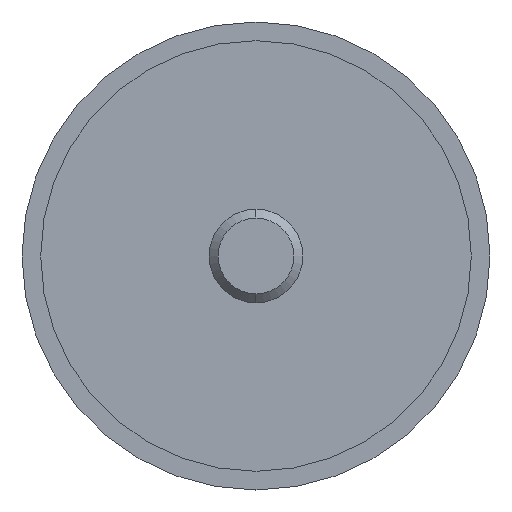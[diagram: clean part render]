
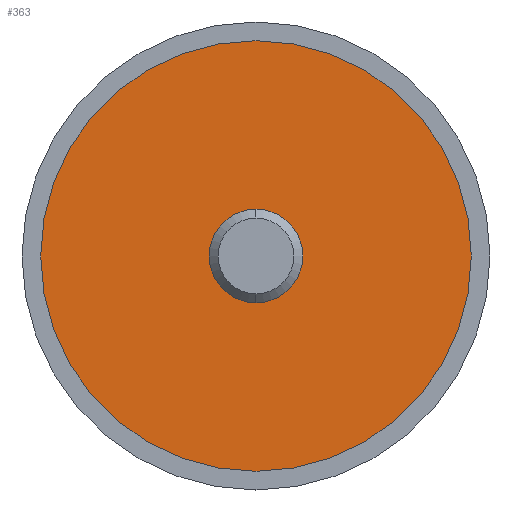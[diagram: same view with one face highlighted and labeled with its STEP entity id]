
A CAD part, left-side view. The second image highlights one B-rep face of the part: STEP entity #363.
In plain terms, the highlighted planar face has unit normal (-1, 0, 0).
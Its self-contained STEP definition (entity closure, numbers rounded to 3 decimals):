
#7 = AXIS2_PLACEMENT_3D ( 'NONE', #376, #677, #419 ) ;
#28 = DIRECTION ( 'NONE',  ( 0., 0., -1. ) ) ;
#53 = AXIS2_PLACEMENT_3D ( 'NONE', #236, #72, #508 ) ;
#63 = DIRECTION ( 'NONE',  ( -1., 0., 0. ) ) ;
#67 = CIRCLE ( 'NONE', #127, 23. ) ;
#72 = DIRECTION ( 'NONE',  ( -1., 0., 0. ) ) ;
#73 = ORIENTED_EDGE ( 'NONE', *, *, #262, .T. ) ;
#127 = AXIS2_PLACEMENT_3D ( 'NONE', #296, #232, #398 ) ;
#145 = CIRCLE ( 'NONE', #431, 23. ) ;
#158 = FACE_OUTER_BOUND ( 'NONE', #286, .T. ) ;
#187 = VERTEX_POINT ( 'NONE', #352 ) ;
#193 = EDGE_LOOP ( 'NONE', ( #377, #623 ) ) ;
#207 = EDGE_CURVE ( 'NONE', #637, #390, #468, .T. ) ;
#232 = DIRECTION ( 'NONE',  ( -1., 0., 0. ) ) ;
#236 = CARTESIAN_POINT ( 'NONE',  ( -9.99, 0., 0. ) ) ;
#246 = FACE_BOUND ( 'NONE', #193, .T. ) ;
#249 = EDGE_CURVE ( 'NONE', #390, #637, #373, .T. ) ;
#262 = EDGE_CURVE ( 'NONE', #187, #545, #145, .T. ) ;
#278 = EDGE_CURVE ( 'NONE', #545, #187, #67, .T. ) ;
#286 = EDGE_LOOP ( 'NONE', ( #73, #404 ) ) ;
#296 = CARTESIAN_POINT ( 'NONE',  ( -9.99, 0., 0. ) ) ;
#303 = CARTESIAN_POINT ( 'NONE',  ( -9.99, 0., -5. ) ) ;
#352 = CARTESIAN_POINT ( 'NONE',  ( -9.99, 0., 23. ) ) ;
#360 = CARTESIAN_POINT ( 'NONE',  ( -9.99, 0., 5. ) ) ;
#363 = ADVANCED_FACE ( 'NONE', ( #158, #246 ), #675, .F. ) ;
#373 = CIRCLE ( 'NONE', #53, 5. ) ;
#376 = CARTESIAN_POINT ( 'NONE',  ( -9.99, 23., 0. ) ) ;
#377 = ORIENTED_EDGE ( 'NONE', *, *, #249, .F. ) ;
#380 = AXIS2_PLACEMENT_3D ( 'NONE', #403, #63, #28 ) ;
#390 = VERTEX_POINT ( 'NONE', #360 ) ;
#393 = CARTESIAN_POINT ( 'NONE',  ( -9.99, 0., 0. ) ) ;
#398 = DIRECTION ( 'NONE',  ( 0., 0., 1. ) ) ;
#403 = CARTESIAN_POINT ( 'NONE',  ( -9.99, 0., 0. ) ) ;
#404 = ORIENTED_EDGE ( 'NONE', *, *, #278, .T. ) ;
#419 = DIRECTION ( 'NONE',  ( 0., 0., -1. ) ) ;
#431 = AXIS2_PLACEMENT_3D ( 'NONE', #393, #611, #566 ) ;
#444 = CARTESIAN_POINT ( 'NONE',  ( -9.99, 0., -23. ) ) ;
#468 = CIRCLE ( 'NONE', #380, 5. ) ;
#508 = DIRECTION ( 'NONE',  ( 0., 0., -1. ) ) ;
#545 = VERTEX_POINT ( 'NONE', #444 ) ;
#566 = DIRECTION ( 'NONE',  ( 0., 0., 1. ) ) ;
#611 = DIRECTION ( 'NONE',  ( -1., 0., 0. ) ) ;
#623 = ORIENTED_EDGE ( 'NONE', *, *, #207, .F. ) ;
#637 = VERTEX_POINT ( 'NONE', #303 ) ;
#675 = PLANE ( 'NONE',  #7 ) ;
#677 = DIRECTION ( 'NONE',  ( 1., 0., 0. ) ) ;
